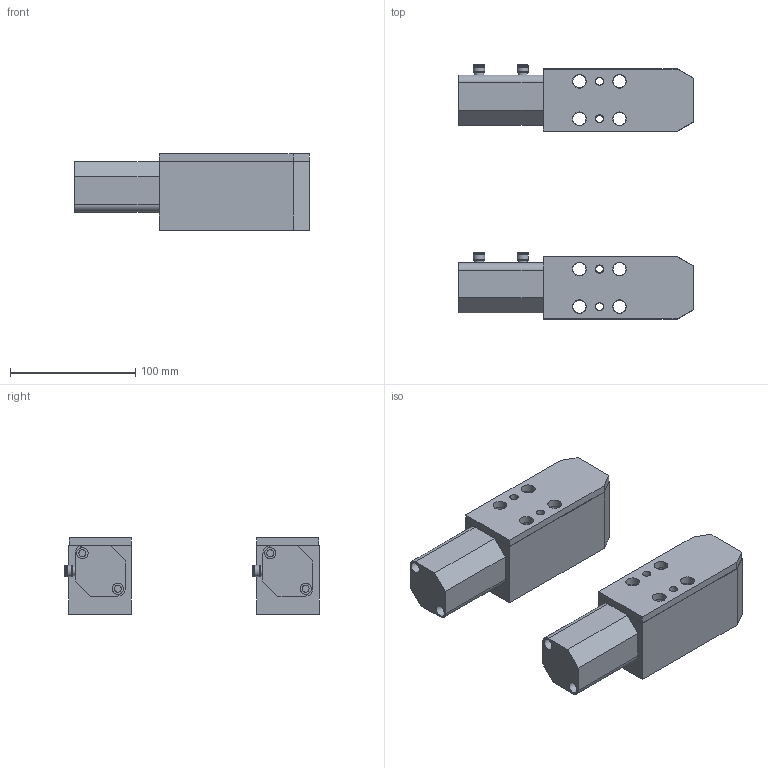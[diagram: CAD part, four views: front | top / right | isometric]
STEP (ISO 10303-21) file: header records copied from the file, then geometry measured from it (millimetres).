
FILE_DESCRIPTION(('STEP AP214'),'1');
FILE_NAME('1001.0013.stp','2020-05-22T14:12:11',(' '),(' '),'Spatial InterOp 3D',' ',' ');
FILE_SCHEMA(('AUTOMOTIVE_DESIGN { 1 0 10303 214 1 1 1 1 }'));
Length unit declared in the file: millimetre
Products named in the file (7): (PMS) 1001.0013; 3; 5; Assemblato; (PMI) 1001.0013; 1; 6
Assembly tree (6 placements, depth 3):
  Assemblato
    (PMS) 1001.0013
      3
      5
    (PMI) 1001.0013
      1
      6
Bounding box: 187.5 x 203.25 x 61 mm (x, y, z)
Volume: 808012.9 mm3; surface area: 147367 mm2
Topology: 4 solids, 4 shells, 780 faces, 2050 edges, 1368 vertices
Faces by surface type: extrusion 374, plane 270, cylinder 118, torus 12, cone 4, sphere 2
Full cylindrical faces by diameter (mm): 5.5 x4, 6 x4, 6.5 x4, 6.8 x4, 7.5 x8, 9 x12, 10.5 x8, 11 x8, 13 x2, 16.9 x8
Entity records: 30446 total; most frequent: CARTESIAN_POINT 6395, ORIENTED_EDGE 3896, DIRECTION 2654, EDGE_CURVE 1948, VERTEX_POINT 1346, VECTOR 1320, B_SPLINE_CURVE_WITH_KNOTS 1124, EDGE_LOOP 974
